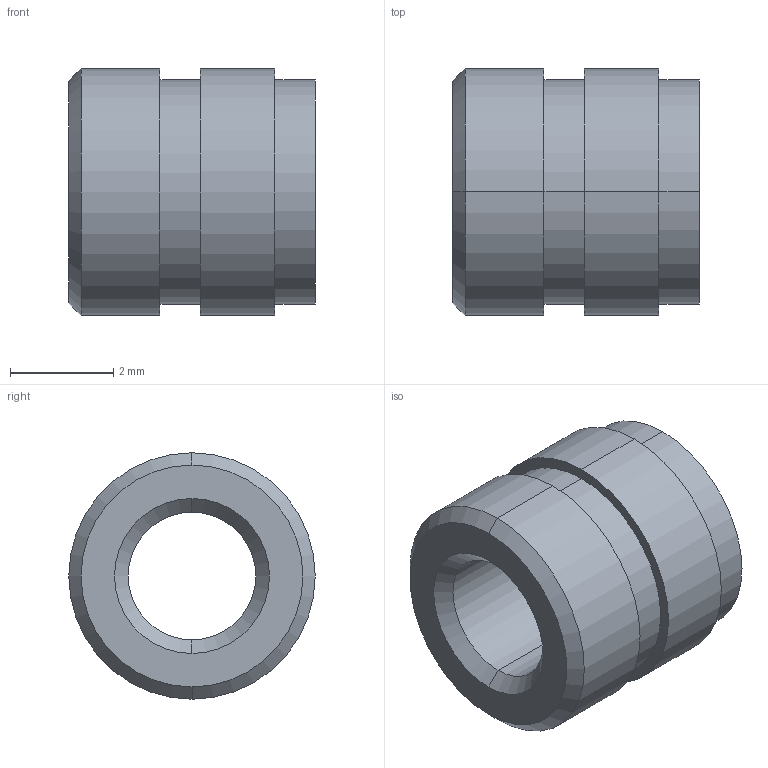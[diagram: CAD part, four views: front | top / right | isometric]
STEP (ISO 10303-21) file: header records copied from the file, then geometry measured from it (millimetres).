
FILE_DESCRIPTION(('starvars output'),'2;1');
FILE_NAME('cv20190724094639000008163.stp','09:46:39 2019/07/24',( 'Thomas Industrial Network Germany GmbH'),( 'Thomas Industrial Network Germany GmbH'),'unknown preprocess','ACIS' ,'unknown authorization');
FILE_SCHEMA(('AUTOMOTIVE_DESIGN_CC2 {UNKNOWN IMPLEMENTATION LEVEL}'));
Length unit declared in the file: millimetre
Products named in the file (1): PRODUCT_ID_1
Bounding box: 4.77 x 4.77 x 4.77 mm (x, y, z)
Volume: 56.6 mm3; surface area: 134.3 mm2
Topology: 1 solids, 1 shells, 21 faces, 42 edges, 26 vertices
Faces by surface type: cylinder 10, cone 6, plane 5
Entity records: 704 total; most frequent: ORIENTED_EDGE 84, CARTESIAN_POINT 68, DIRECTION 68, EDGE_CURVE 42, VERTEX_POINT 26, AXIS2_PLACEMENT_3D 26, EDGE_LOOP 26, FACE_BOUND 26
